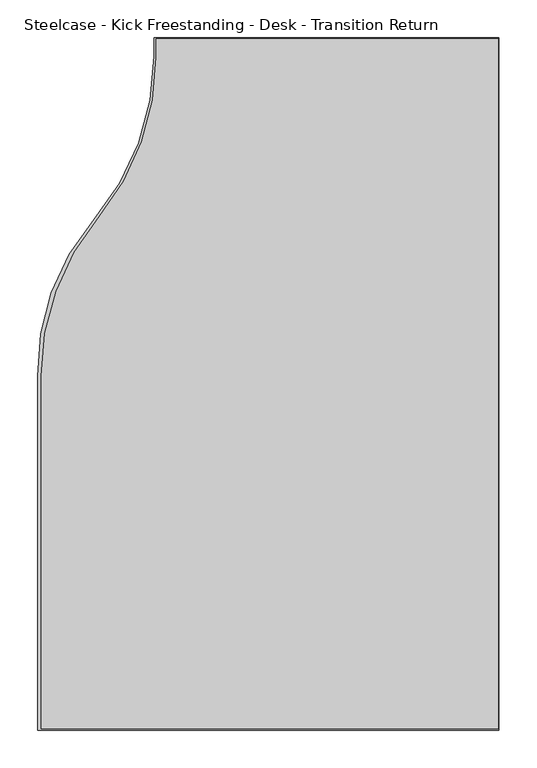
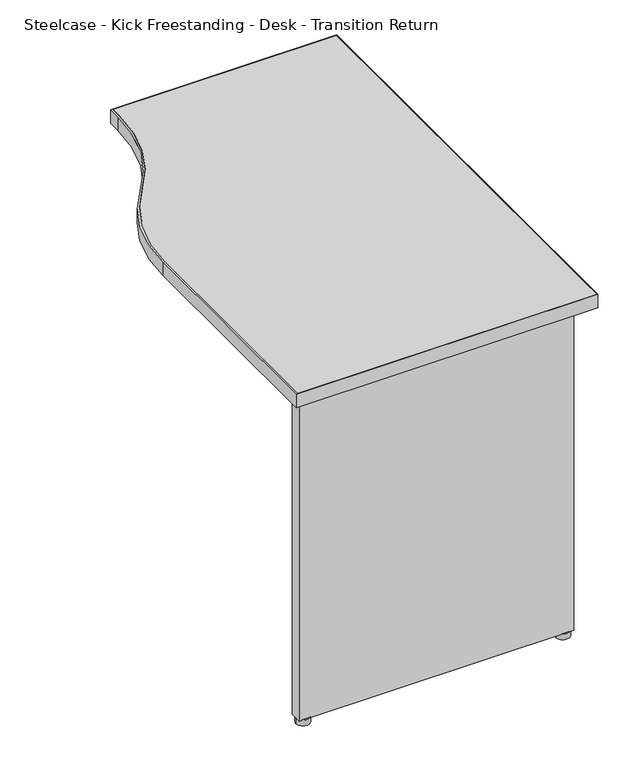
"""IFC4 building model written with IfcOpenShell, lengths in millimetres: furniture geometry, Steelcase - Kick Freestanding - Desk - Transition Return : 18D x 36W - Right."""

import ifcopenshell
import ifcopenshell.guid

model = None  # the IFC model being written
_history = None  # IfcOwnerHistory: only IFC2X3 demands one
_inside = {}  # id of a spatial element -> (the spatial element, [elements in it])
_under = {}  # id of a project, library or spatial element -> (it, [spatial elements below it])
_declared = {}  # id of a project -> (the project, [libraries it declares])
_typed = {}  # id of a type object -> (the type object, [elements of that type])
_made_of = {}  # id of a material, layer set ... -> (it, [elements and type objects made of it])


def new_model(schema):
    """Start an empty IFC model of exactly this schema.

    Asked for "IFC4X3", IfcOpenShell would pick the latest addendum, in which some entities
    have other attributes; the version numbers below select the first issue.
    IFC2X3 requires an IfcOwnerHistory on every rooted entity: one is made here for all.
    """
    global model, _history
    if schema == "IFC4X3":
        model = ifcopenshell.file(schema_version=(4, 3, 0, 0))
    else:
        model = ifcopenshell.file(schema=schema)
    _inside.clear()
    _under.clear()
    _declared.clear()
    _typed.clear()
    _made_of.clear()
    _history = None
    if model.schema == "IFC2X3":
        org = make("IfcOrganization", Name="unknown")
        user = make(
            "IfcPersonAndOrganization",
            ThePerson=make("IfcPerson", FamilyName="unknown"),
            TheOrganization=org,
        )
        app = make(
            "IfcApplication",
            ApplicationDeveloper=org,
            Version="unknown",
            ApplicationFullName="unknown",
            ApplicationIdentifier="unknown",
        )
        _history = make(
            "IfcOwnerHistory",
            OwningUser=user,
            OwningApplication=app,
            ChangeAction="ADDED",
            CreationDate=0,
        )
    return model


def make(cls, **values):
    """One entity of the class cls with the attributes given. An attribute that is None is left unset."""
    return model.create_entity(
        cls, **{name: value for name, value in values.items() if value is not None}
    )


def rooted(cls, **values):
    """An entity with a GlobalId (a new one), such as an element, a storey or a relation."""
    return make(cls, GlobalId=ifcopenshell.guid.new(), OwnerHistory=_history, **values)


def si_unit(unit_type, name, prefix=None):
    """IfcSIUnit, for example si_unit("LENGTHUNIT", "METRE", prefix="MILLI")."""
    return make("IfcSIUnit", UnitType=unit_type, Prefix=prefix, Name=name)


def assignment(units):
    """IfcUnitAssignment: the units of a project."""
    return None if units is None else make("IfcUnitAssignment", Units=units)


def point(xyz):
    """IfcCartesianPoint."""
    return None if xyz is None else make("IfcCartesianPoint", Coordinates=xyz)


def direction(xyz):
    """IfcDirection."""
    return None if xyz is None else make("IfcDirection", DirectionRatios=xyz)


def frame(location, z_axis=None, x_axis=None):
    """IfcAxis2Placement3D, a coordinate frame: its origin and axes. An axis left out is left unset."""
    return make(
        "IfcAxis2Placement3D",
        Location=point(location),
        Axis=direction(z_axis),
        RefDirection=direction(x_axis),
    )


def frame_2d(location, x_axis=None):
    """IfcAxis2Placement2D, a coordinate frame in the plane: its origin and x axis."""
    return make(
        "IfcAxis2Placement2D", Location=point(location), RefDirection=direction(x_axis)
    )


def origin():
    """The frame at (0, 0, 0) with its axes left unset."""
    return frame((0.0, 0.0, 0.0))


def origin_with_axes():
    """The frame at (0, 0, 0) with the z axis (0, 0, 1) and the x axis (1, 0, 0) written out."""
    return frame((0.0, 0.0, 0.0), z_axis=(0.0, 0.0, 1.0), x_axis=(1.0, 0.0, 0.0))


def place(relative_to, where):
    """IfcLocalPlacement: puts the frame where relative to a parent placement (None: the world)."""
    return make(
        "IfcLocalPlacement", PlacementRelTo=relative_to, RelativePlacement=where
    )


def context(
    kind, dimensions, precision=None, world=None, true_north=None, identifier=None
):
    """IfcGeometricRepresentationContext, for example the 3D "Model" context."""
    return make(
        "IfcGeometricRepresentationContext",
        ContextIdentifier=identifier,
        ContextType=kind,
        CoordinateSpaceDimension=dimensions,
        Precision=precision,
        WorldCoordinateSystem=world,
        TrueNorth=true_north,
    )


def project(units=None, contexts=None):
    """IfcProject with its units and contexts."""
    return rooted(
        "IfcProject",
        Name="project",
        RepresentationContexts=contexts,
        UnitsInContext=assignment(units),
    )


def spatial(cls, under=None, at=None, **own):
    """A site, building, storey or space (cls), placed at a placement, below another one or the project."""
    s = rooted(cls, ObjectPlacement=at, **own)
    if under is not None:
        _under.setdefault(under.id(), (under, []))[1].append(s)
    return s


def polyline(points):
    """IfcPolyline through the points."""
    return make("IfcPolyline", Points=[point(p) for p in points])


def circle_curve(where, radius):
    """IfcCircle in the frame where."""
    return make("IfcCircle", Position=where, Radius=radius)


def trimmed(basis, trim1, trim2, sense, master):
    """IfcTrimmedCurve: the piece of a basis curve between two trims."""
    return make(
        "IfcTrimmedCurve",
        BasisCurve=basis,
        Trim1=trim1,
        Trim2=trim2,
        SenseAgreement=sense,
        MasterRepresentation=master,
    )


def segment(curve, same_sense, transition):
    """IfcCompositeCurveSegment."""
    return make(
        "IfcCompositeCurveSegment",
        Transition=transition,
        SameSense=same_sense,
        ParentCurve=curve,
    )


def composite_curve(segments, self_intersect=None):
    """IfcCompositeCurve: segments joined end to end."""
    return make("IfcCompositeCurve", Segments=segments, SelfIntersect=self_intersect)


def outline(outer, holes=None, kind="AREA"):
    """IfcArbitraryClosedProfileDef: a profile drawn as a closed curve; with holes, ...WithVoids."""
    if holes is None:
        return make("IfcArbitraryClosedProfileDef", ProfileType=kind, OuterCurve=outer)
    return make(
        "IfcArbitraryProfileDefWithVoids",
        ProfileType=kind,
        OuterCurve=outer,
        InnerCurves=holes,
    )


def extrude(swept, where, along, depth):
    """IfcExtrudedAreaSolid: the profile swept, set in the frame where, extruded along a direction by depth."""
    return make(
        "IfcExtrudedAreaSolid",
        SweptArea=swept,
        Position=where,
        ExtrudedDirection=direction(along),
        Depth=depth,
    )


def shape(context_of_items, identifier, shape_type, items):
    """IfcShapeRepresentation: the items that make up one representation, for example the "Body"."""
    return make(
        "IfcShapeRepresentation",
        ContextOfItems=context_of_items,
        RepresentationIdentifier=identifier,
        RepresentationType=shape_type,
        Items=items,
    )


def source(mapping_origin, context_of_items, identifier, shape_type, items):
    """IfcRepresentationMap: a shape defined once, which mapped items show again and again."""
    return make(
        "IfcRepresentationMap",
        MappingOrigin=mapping_origin,
        MappedRepresentation=shape(context_of_items, identifier, shape_type, items),
    )


def transform(
    local_origin,
    x_axis=None,
    y_axis=None,
    z_axis=None,
    scale=None,
    scale2=None,
    scale3=None,
    uniform=True,
):
    """IfcCartesianTransformationOperator3D, or its non-uniform kind. x_axis, y_axis, z_axis: its Axis1, 2, 3."""
    if uniform:
        return make(
            "IfcCartesianTransformationOperator3D",
            Axis1=direction(x_axis),
            Axis2=direction(y_axis),
            LocalOrigin=point(local_origin),
            Scale=scale,
            Axis3=direction(z_axis),
        )
    return make(
        "IfcCartesianTransformationOperator3DnonUniform",
        Axis1=direction(x_axis),
        Axis2=direction(y_axis),
        LocalOrigin=point(local_origin),
        Scale=scale,
        Axis3=direction(z_axis),
        Scale2=scale2,
        Scale3=scale3,
    )


def mapped(mapping_source, mapping_target):
    """IfcMappedItem: shows the shape of a source again, moved by a transform."""
    return make(
        "IfcMappedItem", MappingSource=mapping_source, MappingTarget=mapping_target
    )


def made_of(thing, what):
    """Note that an element or type object is made of a material, layer set ...; save() writes the relation."""
    if what is not None:
        _made_of.setdefault(what.id(), (what, []))[1].append(thing)
    return thing


def element(
    cls,
    number,
    at=None,
    inside=None,
    cuts=None,
    type_object=None,
    material=None,
    context=None,
    identifier="Body",
    shape_type=None,
    held_by="IfcProductDefinitionShape",
    body=None,
    shapes=None,
    **own,
):
    """One element of the class cls, such as IfcWall. Its Tag is "e" and its number.

    at: its placement. inside: the storey or other place that contains it. cuts: it is an
    opening in that element (IfcRelVoidsElement). A single representation is given by context,
    identifier, shape_type and body (its items); several are given by shapes. held_by: the class
    of the entity that holds the representations. save() writes the other relations.
    """
    e = rooted(cls, Tag="e%d" % number, ObjectPlacement=at, **own)
    if body is not None:
        shapes = [shape(context, identifier, shape_type, body)]
    if shapes is not None:
        e.Representation = make(held_by, Representations=shapes)
    if inside is not None:
        _inside.setdefault(inside.id(), (inside, []))[1].append(e)
    if cuts is not None:
        rooted(
            "IfcRelVoidsElement", RelatingBuildingElement=cuts, RelatedOpeningElement=e
        )
    if type_object is not None:
        _typed.setdefault(type_object.id(), (type_object, []))[1].append(e)
    return made_of(e, material)


def aggregate(whole, parts):
    """IfcRelAggregates: a whole, such as a stair, and the parts it consists of."""
    return rooted("IfcRelAggregates", RelatingObject=whole, RelatedObjects=parts)


def save(model, path):
    """Write the relations noted so far, then the file.

    IfcRelAggregates (storeys below a building ...), IfcRelContainedInSpatialStructure (elements
    in a storey), IfcRelDefinesByType, IfcRelAssociatesMaterial and IfcRelDeclares: one each for
    every whole, place, type object, material and project.
    """
    for whole, parts in _under.values():
        aggregate(whole, parts)
    for where, things in _inside.values():
        rooted(
            "IfcRelContainedInSpatialStructure",
            RelatedElements=things,
            RelatingStructure=where,
        )
    for kind, things in _typed.values():
        rooted("IfcRelDefinesByType", RelatedObjects=things, RelatingType=kind)
    for what, things in _made_of.values():
        rooted("IfcRelAssociatesMaterial", RelatedObjects=things, RelatingMaterial=what)
    for by, libraries in _declared.values():
        rooted("IfcRelDeclares", RelatingContext=by, RelatedDefinitions=libraries)
    model.write(path)


def steelcase_kick_freestanding_desk_transition_return_d3e1c360(model_context):
    return source(origin(), model_context, "Body", "SweptSolid", [
        extrude(outline(composite_curve([segment(polyline([(1707.9294594, -546.8145152), (2163.8594425, -546.8145152), (2163.8594425, -1461.2145152), (1554.2594425, -1461.2145152), (1554.2594425, -994.1085152)]), True, "CONTINUOUS"), segment(trimmed(circle_curve(frame_2d((1864.0239413, -987.7058619)), 309.8306613), [point((1554.2594425, -994.1085152))], [point((1628.457587, -786.4509703))], False, "CARTESIAN"), True, "CONTINUOUS"), segment(trimmed(circle_curve(frame_2d((1376.3728371, -571.0836731)), 331.5566223), [point((1628.457587, -786.4509703))], [point((1707.9294594, -571.0836731))], True, "CARTESIAN"), True, "CONTINUOUS"), segment(polyline([(1707.9294594, -571.0836731), (1707.9294594, -546.8145152)]), True, "CONTINUOUS")], self_intersect=False), holes=[composite_curve([segment(polyline([(1710.9012257, -547.8051152), (1710.9012257, -572.1320079)]), True, "CONTINUOUS"), segment(trimmed(circle_curve(frame_2d((1386.0725345, -574.5942763)), 324.8380233), [point((1710.9012257, -572.1320079))], [point((1635.1600947, -783.1011797))], False, "CARTESIAN"), True, "CONTINUOUS"), segment(trimmed(circle_curve(frame_2d((1887.2347336, -994.1085152)), 328.7335079), [point((1635.1600947, -783.1011797))], [point((1558.5012257, -994.1085152))], True, "CARTESIAN"), True, "CONTINUOUS"), segment(polyline([(1558.5012257, -994.1085152), (1558.5012257, -1459.4619332), (2162.8688425, -1459.4619332), (2162.8688425, -547.8051152), (1710.9012257, -547.8051152)]), True, "CONTINUOUS")], self_intersect=False)]), frame((0.0, 0.0, 694.944), z_axis=(0.0, 0.0, 1.0), x_axis=(1.0, 0.0, 0.0)), (0.0, 0.0, 1.0), 28.956),
        extrude(outline(composite_curve([segment(polyline([(2162.8688425, -547.8051152), (2162.8688425, -1459.4619332), (1558.5012257, -1459.4619332), (1558.5012257, -994.1085152)]), True, "CONTINUOUS"), segment(trimmed(circle_curve(frame_2d((1887.2347336, -994.1085152)), 328.7335079), [point((1558.5012257, -994.1085152))], [point((1635.1600947, -783.1011797))], False, "CARTESIAN"), True, "CONTINUOUS"), segment(trimmed(circle_curve(frame_2d((1386.0725345, -574.5942763)), 324.8380233), [point((1635.1600947, -783.1011797))], [point((1710.9012257, -572.1320079))], True, "CARTESIAN"), True, "CONTINUOUS"), segment(polyline([(1710.9012257, -572.1320079), (1710.9012257, -547.8051152), (2162.8688425, -547.8051152)]), True, "CONTINUOUS")], self_intersect=False)), frame((0.0, 0.0, 694.944), z_axis=(0.0, 0.0, 1.0), x_axis=(1.0, 0.0, 0.0)), (0.0, 0.0, 1.0), 28.956),
        extrude(outline(composite_curve([segment(trimmed(circle_curve(frame_2d((2107.4714425, -1435.9669041)), 13.97), [point((2121.4414425, -1435.9669041))], [point((2093.5014425, -1435.9669041))], False, "CARTESIAN"), True, "CONTINUOUS"), segment(trimmed(circle_curve(frame_2d((2107.4714425, -1435.9669041)), 13.97), [point((2093.5014425, -1435.9669041))], [point((2121.4414425, -1435.9669041))], False, "CARTESIAN"), True, "CONTINUOUS")], self_intersect=False)), origin_with_axes(), (0.0, 0.0, 1.0), 12.7),
        extrude(outline(composite_curve([segment(trimmed(circle_curve(frame_2d((1582.4534425, -1435.9669041)), 13.97), [point((1596.4234425, -1435.9669041))], [point((1568.4834425, -1435.9669041))], False, "CARTESIAN"), True, "CONTINUOUS"), segment(trimmed(circle_curve(frame_2d((1582.4534425, -1435.9669041)), 13.97), [point((1568.4834425, -1435.9669041))], [point((1596.4234425, -1435.9669041))], False, "CARTESIAN"), True, "CONTINUOUS")], self_intersect=False)), origin_with_axes(), (0.0, 0.0, 1.0), 12.7),
        extrude(outline(polyline([(2122.7114425, -1423.2669041), (2122.7114425, -1447.7525152), (1568.2294473, -1447.7525152), (1568.2294473, -1423.2669041), (1691.2670317, -1423.2669041), (1691.2670317, -1445.6951136), (1790.9874347, -1445.6951136), (1790.9874347, -1423.2669041), (1899.7248382, -1423.2669041), (1899.7248382, -1445.6951136), (1999.4452412, -1445.6951136), (1999.4452412, -1423.2669041), (2122.7114425, -1423.2669041)])), frame((0.0, 0.0, 12.7), z_axis=(0.0, 0.0, 1.0), x_axis=(1.0, 0.0, 0.0)), (0.0, 0.0, 1.0), 682.244),
    ])


if __name__ == "__main__":
    model = new_model("IFC4")
    model_context = context("Model", 3, world=origin())
    ifc_project = project(units=[si_unit("LENGTHUNIT", "METRE", prefix="MILLI")], contexts=[model_context])
    site = spatial("IfcSite", under=ifc_project)
    building = spatial("IfcBuilding", under=site)
    placement = place(None, origin())
    steelcase_kick_freestanding_desk_transition_return_shape = steelcase_kick_freestanding_desk_transition_return_d3e1c360(model_context)
    element("IfcFurniture", 1, ObjectType="Steelcase - Kick Freestanding - Desk - Transition Return : 18D x 36W - Right", at=placement, inside=building, context=model_context, shape_type="MappedRepresentation", body=[
        mapped(steelcase_kick_freestanding_desk_transition_return_shape, transform((0.0, 0.0, 0.0), x_axis=(1.0, 0.0, 0.0), y_axis=(0.0, 1.0, 0.0), z_axis=(0.0, 0.0, 1.0))),
    ])
    save(model, "model.ifc")
